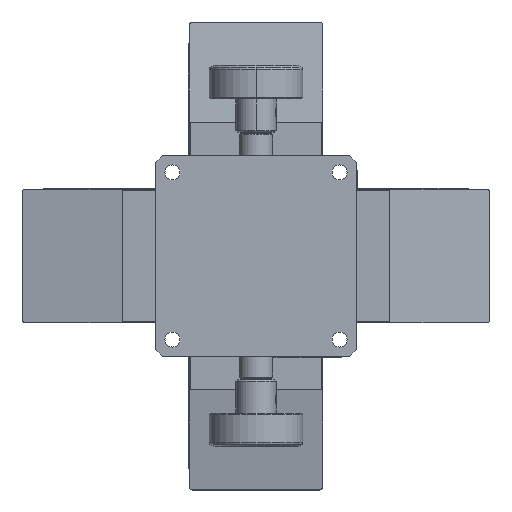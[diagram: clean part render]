
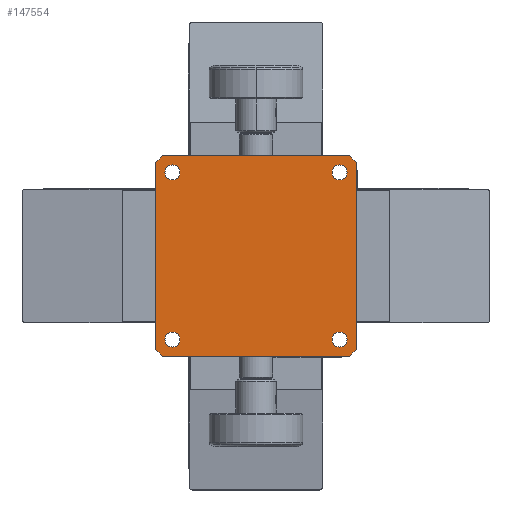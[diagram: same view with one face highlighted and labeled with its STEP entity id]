
A CAD part, front view. The second image highlights one B-rep face of the part: STEP entity #147554.
In plain terms, the highlighted planar face has unit normal (0, -1, 0).
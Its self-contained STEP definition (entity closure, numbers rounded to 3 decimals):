
#1017 = ORIENTED_EDGE ( 'NONE', *, *, #36816, .T. ) ;
#2404 = CARTESIAN_POINT ( 'NONE',  ( -22.75, 0., -25. ) ) ;
#2783 = EDGE_CURVE ( 'NONE', #89436, #25111, #39808, .T. ) ;
#3163 = CARTESIAN_POINT ( 'NONE',  ( 29., 0., -29. ) ) ;
#5146 = FACE_OUTER_BOUND ( 'NONE', #120218, .T. ) ;
#8933 = DIRECTION ( 'NONE',  ( 0., 1., 0. ) ) ;
#9613 = LINE ( 'NONE', #27945, #128915 ) ;
#10543 = VECTOR ( 'NONE', #46494, 1000. ) ;
#13045 = CIRCLE ( 'NONE', #182940, 2.25 ) ;
#17147 = VERTEX_POINT ( 'NONE', #90018 ) ;
#17512 = EDGE_CURVE ( 'NONE', #75861, #128317, #94981, .T. ) ;
#18521 = DIRECTION ( 'NONE',  ( -1., 0., 0. ) ) ;
#18616 = DIRECTION ( 'NONE',  ( -0.707, 0., 0.707 ) ) ;
#18697 = CARTESIAN_POINT ( 'NONE',  ( -30., 0., 28. ) ) ;
#20101 = CARTESIAN_POINT ( 'NONE',  ( 30., 0., -28. ) ) ;
#20289 = EDGE_CURVE ( 'NONE', #98267, #142166, #184663, .T. ) ;
#24197 = CARTESIAN_POINT ( 'NONE',  ( -28., 0., -30. ) ) ;
#25111 = VERTEX_POINT ( 'NONE', #18697 ) ;
#26818 = EDGE_CURVE ( 'NONE', #69005, #178630, #91058, .T. ) ;
#27326 = AXIS2_PLACEMENT_3D ( 'NONE', #35247, #135941, #49719 ) ;
#27945 = CARTESIAN_POINT ( 'NONE',  ( 30., 0., -30. ) ) ;
#28299 = ORIENTED_EDGE ( 'NONE', *, *, #20289, .T. ) ;
#31215 = AXIS2_PLACEMENT_3D ( 'NONE', #95078, #8933, #109528 ) ;
#33730 = EDGE_LOOP ( 'NONE', ( #42450, #155633 ) ) ;
#34418 = CARTESIAN_POINT ( 'NONE',  ( 27.25, 0., 25. ) ) ;
#35247 = CARTESIAN_POINT ( 'NONE',  ( -25., 0., 25. ) ) ;
#36225 = VERTEX_POINT ( 'NONE', #140328 ) ;
#36816 = EDGE_CURVE ( 'NONE', #89436, #128601, #108970, .T. ) ;
#39808 = LINE ( 'NONE', #125026, #69092 ) ;
#40570 = VERTEX_POINT ( 'NONE', #92089 ) ;
#42450 = ORIENTED_EDGE ( 'NONE', *, *, #161462, .T. ) ;
#42521 = CARTESIAN_POINT ( 'NONE',  ( -59., 0., 1. ) ) ;
#43094 = LINE ( 'NONE', #46434, #153438 ) ;
#43345 = FACE_BOUND ( 'NONE', #91883, .T. ) ;
#46359 = CARTESIAN_POINT ( 'NONE',  ( -22.75, 0., 25. ) ) ;
#46434 = CARTESIAN_POINT ( 'NONE',  ( -29., 0., 29. ) ) ;
#46494 = DIRECTION ( 'NONE',  ( 0.707, 0., 0.707 ) ) ;
#48287 = DIRECTION ( 'NONE',  ( -0.707, 0., -0.707 ) ) ;
#49161 = DIRECTION ( 'NONE',  ( 0., 1., 0. ) ) ;
#49719 = DIRECTION ( 'NONE',  ( 1., 0., 0. ) ) ;
#51874 = DIRECTION ( 'NONE',  ( 0., 1., 0. ) ) ;
#53324 = LINE ( 'NONE', #3163, #10543 ) ;
#54649 = CARTESIAN_POINT ( 'NONE',  ( 25., 0., -25. ) ) ;
#56359 = DIRECTION ( 'NONE',  ( 0., 1., 0. ) ) ;
#57110 = LINE ( 'NONE', #148963, #61649 ) ;
#58833 = ORIENTED_EDGE ( 'NONE', *, *, #2783, .F. ) ;
#60014 = AXIS2_PLACEMENT_3D ( 'NONE', #176506, #104714, #18521 ) ;
#61649 = VECTOR ( 'NONE', #104315, 1000. ) ;
#63009 = VERTEX_POINT ( 'NONE', #34418 ) ;
#65392 = ORIENTED_EDGE ( 'NONE', *, *, #84622, .F. ) ;
#66795 = AXIS2_PLACEMENT_3D ( 'NONE', #54649, #155327, #69103 ) ;
#69005 = VERTEX_POINT ( 'NONE', #186495 ) ;
#69092 = VECTOR ( 'NONE', #168509, 1000. ) ;
#69103 = DIRECTION ( 'NONE',  ( 1., 0., 0. ) ) ;
#70318 = CARTESIAN_POINT ( 'NONE',  ( -25., 0., -25. ) ) ;
#70776 = VECTOR ( 'NONE', #101029, 1000. ) ;
#72676 = EDGE_CURVE ( 'NONE', #80571, #40570, #159104, .T. ) ;
#74980 = EDGE_CURVE ( 'NONE', #142166, #98267, #145210, .T. ) ;
#75305 = DIRECTION ( 'NONE',  ( 0., 1., 0. ) ) ;
#75474 = CARTESIAN_POINT ( 'NONE',  ( 30., 0., 30. ) ) ;
#75861 = VERTEX_POINT ( 'NONE', #77080 ) ;
#77080 = CARTESIAN_POINT ( 'NONE',  ( -27.25, 0., 25. ) ) ;
#80571 = VERTEX_POINT ( 'NONE', #102801 ) ;
#81631 = FACE_BOUND ( 'NONE', #134220, .T. ) ;
#83729 = CARTESIAN_POINT ( 'NONE',  ( -27.25, 0., -25. ) ) ;
#84622 = EDGE_CURVE ( 'NONE', #36225, #128601, #9613, .T. ) ;
#84761 = DIRECTION ( 'NONE',  ( 1., 0., 0. ) ) ;
#89304 = CARTESIAN_POINT ( 'NONE',  ( -30., 0., -28. ) ) ;
#89436 = VERTEX_POINT ( 'NONE', #89304 ) ;
#89448 = EDGE_CURVE ( 'NONE', #36225, #118683, #53324, .T. ) ;
#89916 = DIRECTION ( 'NONE',  ( 1., 0., 0. ) ) ;
#90018 = CARTESIAN_POINT ( 'NONE',  ( 30., 0., 28. ) ) ;
#91058 = CIRCLE ( 'NONE', #66795, 2.25 ) ;
#91883 = EDGE_LOOP ( 'NONE', ( #158982, #126563 ) ) ;
#92089 = CARTESIAN_POINT ( 'NONE',  ( 28., 0., 30. ) ) ;
#92608 = VECTOR ( 'NONE', #18616, 1000. ) ;
#94981 = CIRCLE ( 'NONE', #27326, 2.25 ) ;
#95078 = CARTESIAN_POINT ( 'NONE',  ( -25., 0., -25. ) ) ;
#98267 = VERTEX_POINT ( 'NONE', #2404 ) ;
#100000 = EDGE_CURVE ( 'NONE', #17147, #40570, #164708, .T. ) ;
#101029 = DIRECTION ( 'NONE',  ( 0.707, 0., -0.707 ) ) ;
#102801 = CARTESIAN_POINT ( 'NONE',  ( -28., 0., 30. ) ) ;
#104315 = DIRECTION ( 'NONE',  ( 0., 0., -1. ) ) ;
#104326 = CARTESIAN_POINT ( 'NONE',  ( 22.75, 0., -25. ) ) ;
#104714 = DIRECTION ( 'NONE',  ( 0., -1., 0. ) ) ;
#107881 = ORIENTED_EDGE ( 'NONE', *, *, #74980, .T. ) ;
#108309 = AXIS2_PLACEMENT_3D ( 'NONE', #142558, #56359, #157050 ) ;
#108970 = LINE ( 'NONE', #42521, #70776 ) ;
#109528 = DIRECTION ( 'NONE',  ( 1., 0., 0. ) ) ;
#112380 = AXIS2_PLACEMENT_3D ( 'NONE', #70318, #170996, #84761 ) ;
#116812 = EDGE_CURVE ( 'NONE', #165984, #63009, #146290, .T. ) ;
#118161 = EDGE_CURVE ( 'NONE', #63009, #165984, #13045, .T. ) ;
#118683 = VERTEX_POINT ( 'NONE', #20101 ) ;
#119918 = FACE_BOUND ( 'NONE', #180680, .T. ) ;
#120218 = EDGE_LOOP ( 'NONE', ( #148847, #146681, #58833, #1017, #65392, #154088, #164575, #181703 ) ) ;
#125026 = CARTESIAN_POINT ( 'NONE',  ( -30., 0., 30. ) ) ;
#126563 = ORIENTED_EDGE ( 'NONE', *, *, #116812, .T. ) ;
#128317 = VERTEX_POINT ( 'NONE', #46359 ) ;
#128601 = VERTEX_POINT ( 'NONE', #24197 ) ;
#128639 = DIRECTION ( 'NONE',  ( -1., 0., 0. ) ) ;
#128915 = VECTOR ( 'NONE', #128639, 1000. ) ;
#128917 = FACE_BOUND ( 'NONE', #33730, .T. ) ;
#134220 = EDGE_LOOP ( 'NONE', ( #156089, #174804 ) ) ;
#135381 = CARTESIAN_POINT ( 'NONE',  ( 25., 0., -25. ) ) ;
#135941 = DIRECTION ( 'NONE',  ( 0., 1., 0. ) ) ;
#138088 = CARTESIAN_POINT ( 'NONE',  ( 25., 0., 25. ) ) ;
#139140 = EDGE_CURVE ( 'NONE', #80571, #25111, #43094, .T. ) ;
#140328 = CARTESIAN_POINT ( 'NONE',  ( 28., 0., -30. ) ) ;
#142166 = VERTEX_POINT ( 'NONE', #83729 ) ;
#142558 = CARTESIAN_POINT ( 'NONE',  ( -25., 0., 25. ) ) ;
#143500 = CARTESIAN_POINT ( 'NONE',  ( 22.75, 0., 25. ) ) ;
#144749 = AXIS2_PLACEMENT_3D ( 'NONE', #135381, #49161, #149849 ) ;
#145210 = CIRCLE ( 'NONE', #112380, 2.25 ) ;
#146290 = CIRCLE ( 'NONE', #164788, 2.25 ) ;
#146681 = ORIENTED_EDGE ( 'NONE', *, *, #139140, .T. ) ;
#147155 = CIRCLE ( 'NONE', #108309, 2.25 ) ;
#147554 = ADVANCED_FACE ( 'NONE', ( #43345, #128917, #119918, #81631, #5146 ), #162036, .T. ) ;
#148847 = ORIENTED_EDGE ( 'NONE', *, *, #72676, .F. ) ;
#148963 = CARTESIAN_POINT ( 'NONE',  ( 30., 0., 30. ) ) ;
#149849 = DIRECTION ( 'NONE',  ( 1., 0., 0. ) ) ;
#150104 = EDGE_CURVE ( 'NONE', #17147, #118683, #57110, .T. ) ;
#152543 = DIRECTION ( 'NONE',  ( 1., 0., 0. ) ) ;
#152599 = VECTOR ( 'NONE', #89916, 1000. ) ;
#153438 = VECTOR ( 'NONE', #48287, 1000. ) ;
#154088 = ORIENTED_EDGE ( 'NONE', *, *, #89448, .T. ) ;
#155327 = DIRECTION ( 'NONE',  ( 0., 1., 0. ) ) ;
#155633 = ORIENTED_EDGE ( 'NONE', *, *, #17512, .T. ) ;
#156089 = ORIENTED_EDGE ( 'NONE', *, *, #26818, .T. ) ;
#157050 = DIRECTION ( 'NONE',  ( 1., 0., 0. ) ) ;
#158982 = ORIENTED_EDGE ( 'NONE', *, *, #118161, .T. ) ;
#159104 = LINE ( 'NONE', #75474, #152599 ) ;
#161462 = EDGE_CURVE ( 'NONE', #128317, #75861, #147155, .T. ) ;
#161552 = CARTESIAN_POINT ( 'NONE',  ( 25., 0., 25. ) ) ;
#162036 = PLANE ( 'NONE',  #60014 ) ;
#163994 = CARTESIAN_POINT ( 'NONE',  ( -1., 0., 59. ) ) ;
#164575 = ORIENTED_EDGE ( 'NONE', *, *, #150104, .F. ) ;
#164708 = LINE ( 'NONE', #163994, #92608 ) ;
#164788 = AXIS2_PLACEMENT_3D ( 'NONE', #138088, #51874, #152543 ) ;
#165984 = VERTEX_POINT ( 'NONE', #143500 ) ;
#168509 = DIRECTION ( 'NONE',  ( 0., 0., 1. ) ) ;
#170996 = DIRECTION ( 'NONE',  ( 0., 1., 0. ) ) ;
#174804 = ORIENTED_EDGE ( 'NONE', *, *, #178270, .T. ) ;
#176009 = DIRECTION ( 'NONE',  ( 1., 0., 0. ) ) ;
#176255 = CIRCLE ( 'NONE', #144749, 2.25 ) ;
#176506 = CARTESIAN_POINT ( 'NONE',  ( -30., 0., 30. ) ) ;
#178270 = EDGE_CURVE ( 'NONE', #178630, #69005, #176255, .T. ) ;
#178630 = VERTEX_POINT ( 'NONE', #104326 ) ;
#180680 = EDGE_LOOP ( 'NONE', ( #28299, #107881 ) ) ;
#181703 = ORIENTED_EDGE ( 'NONE', *, *, #100000, .T. ) ;
#182940 = AXIS2_PLACEMENT_3D ( 'NONE', #161552, #75305, #176009 ) ;
#184663 = CIRCLE ( 'NONE', #31215, 2.25 ) ;
#186495 = CARTESIAN_POINT ( 'NONE',  ( 27.25, 0., -25. ) ) ;
